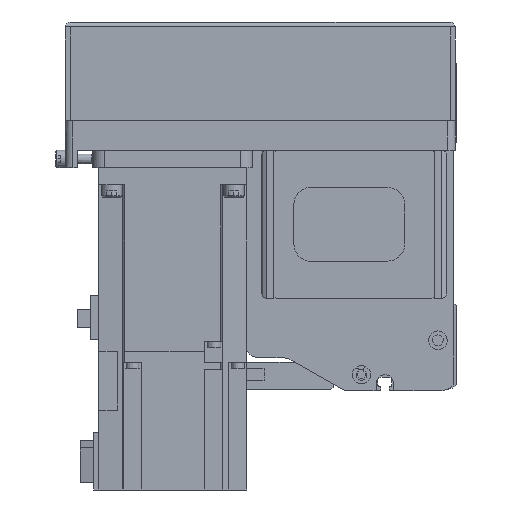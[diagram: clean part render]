
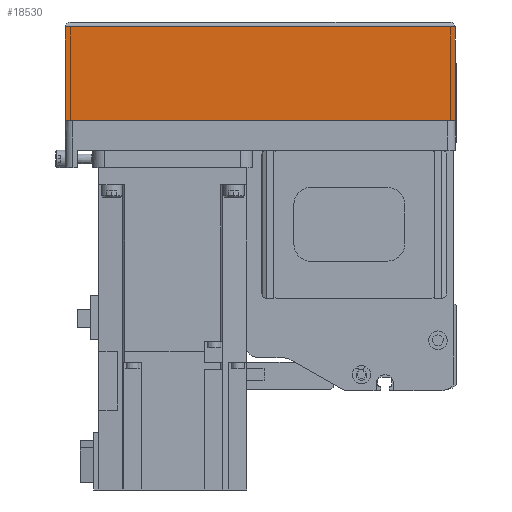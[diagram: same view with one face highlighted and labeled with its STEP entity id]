
A CAD part, left-side view. The second image highlights one B-rep face of the part: STEP entity #18530.
In plain terms, the highlighted planar face has unit normal (-1, 0, 0) as drawn and (0, 1, 0) by its records, which use the part's own axes.
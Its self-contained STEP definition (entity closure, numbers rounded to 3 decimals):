
#2862=ORIENTED_EDGE('',*,*,#7427,.F.);
#2863=ORIENTED_EDGE('',*,*,#7496,.F.);
#2864=ORIENTED_EDGE('',*,*,#7444,.T.);
#2865=ORIENTED_EDGE('',*,*,#7419,.T.);
#7419=EDGE_CURVE('',#9888,#9887,#11781,.T.);
#7427=EDGE_CURVE('',#9895,#9887,#11789,.T.);
#7444=EDGE_CURVE('',#9905,#9888,#11802,.T.);
#7496=EDGE_CURVE('',#9905,#9895,#11831,.T.);
#9887=VERTEX_POINT('',#28414);
#9888=VERTEX_POINT('',#28416);
#9895=VERTEX_POINT('',#28433);
#9905=VERTEX_POINT('',#28464);
#11781=LINE('',#28415,#13451);
#11789=LINE('',#28432,#13459);
#11802=LINE('',#28463,#13472);
#11831=LINE('',#28558,#13501);
#13451=VECTOR('',#22737,1000.);
#13459=VECTOR('',#22749,1000.);
#13472=VECTOR('',#22778,1000.);
#13501=VECTOR('',#22895,1000.);
#14998=EDGE_LOOP('',(#2862,#2863,#2864,#2865));
#16468=FACE_BOUND('',#14998,.T.);
#17767=PLANE('',#19875);
#18530=ADVANCED_FACE('',(#16468),#17767,.T.);
#19875=AXIS2_PLACEMENT_3D('',#28557,#22893,#22894);
#22737=DIRECTION('',(1.,0.,0.));
#22749=DIRECTION('',(0.,0.,1.));
#22778=DIRECTION('',(0.,0.,1.));
#22893=DIRECTION('',(0.,1.,0.));
#22894=DIRECTION('',(0.,0.,1.));
#22895=DIRECTION('',(1.,0.,0.));
#28414=CARTESIAN_POINT('',(0.,39.,-12.1));
#28415=CARTESIAN_POINT('',(-158.,39.,-12.1));
#28416=CARTESIAN_POINT('',(-158.,39.,-12.1));
#28432=CARTESIAN_POINT('',(0.,39.,-50.));
#28433=CARTESIAN_POINT('',(0.,39.,-50.));
#28463=CARTESIAN_POINT('',(-158.,39.,-50.));
#28464=CARTESIAN_POINT('',(-158.,39.,-50.));
#28557=CARTESIAN_POINT('',(-158.,39.,-50.));
#28558=CARTESIAN_POINT('',(-158.,39.,-50.));
